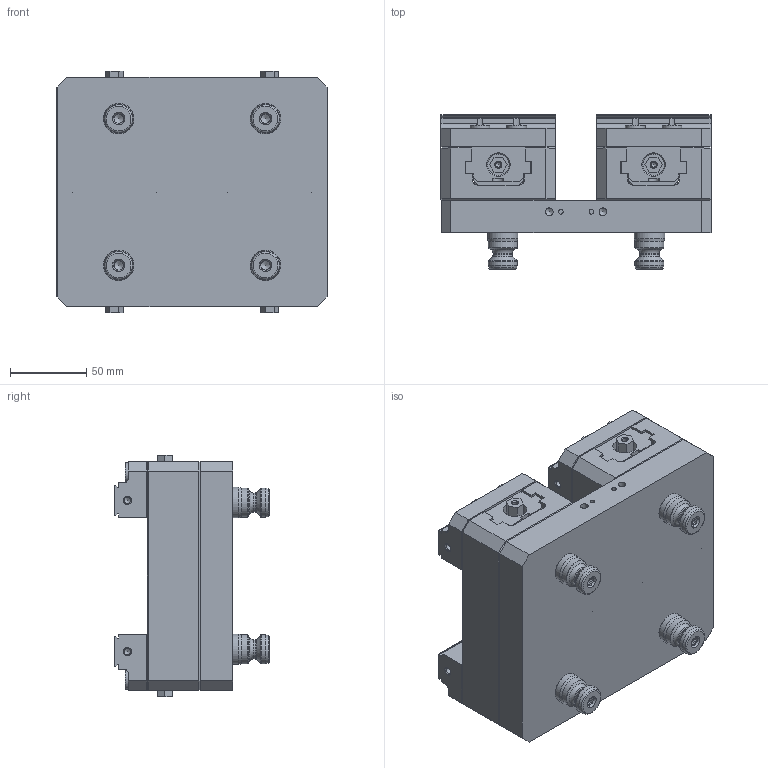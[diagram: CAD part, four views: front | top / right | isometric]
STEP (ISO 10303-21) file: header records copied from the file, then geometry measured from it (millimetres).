
FILE_DESCRIPTION (( 'STEP AP214' ), '1' );
FILE_NAME ('A96-2V75150X_WEBSITE.step', '2025-08-14T18:43:56', ( '' ), ( '' ), 'SwSTEP 2.0', 'SolidWorks 2024', '' );
FILE_SCHEMA (( 'AUTOMOTIVE_DESIGN' ));
Length unit declared in the file: inch
Products named in the file (20): V75150-4_WEBSITE; D_PS20F-1_WEBSITE_HARD TURN; M5x10.DP_WEBSITE_93600A511; HW.76252_WEBSITE_91290A442; D_39874.CPSS_WEBSITE_91390A162; V75100X-2_WEBSITE_V75100X-2L OP2; D_PS20F_WEBSITE; HW.76232_WEBSITE_91290A418; A96-2V75150X_WEBSITE; LP8_WEBSITE_LP8; HW.76048_WEBSITE_91290A138; V75100-6_WEBSITE; V75150X-1_WEBSITE_FINAL; V75150X_WEBSITE; SB3V_WEBSITE_FINISHED PART; V75100X-3_WEBSITE; M4C_WEBSITE; A96-2V75100X-1_WEBSITE; V75100X-2_WEBSITE_V75100X-2R OP2; V75100X-5_WEBSITE_HARD OP2
Assembly tree (36 placements, depth 3):
  A96-2V75150X_WEBSITE
    A96-2V75100X-1_WEBSITE
    V75150X_WEBSITE  x2
      V75150X-1_WEBSITE_FINAL
      V75100X-2_WEBSITE_V75100X-2R OP2
      V75100X-2_WEBSITE_V75100X-2L OP2
      V75100X-3_WEBSITE
      V75150-4_WEBSITE
      V75100X-5_WEBSITE_HARD OP2
      V75100-6_WEBSITE
      SB3V_WEBSITE_FINISHED PART
      M5x10.DP_WEBSITE_93600A511
      HW.76048_WEBSITE_91290A138
      HW.76232_WEBSITE_91290A418
      M4C_WEBSITE
      LP8_WEBSITE_LP8
      HW.76252_WEBSITE_91290A442
    D_PS20F_WEBSITE  x4
      D_PS20F-1_WEBSITE_HARD TURN
      D_39874.CPSS_WEBSITE_91390A162
Bounding box: 176.6 x 101.09 x 158 mm (x, y, z)
Volume: 1363688.5 mm3; surface area: 326875.9 mm2
Topology: 63 solids, 63 shells, 1732 faces, 4040 edges, 2564 vertices
Faces by surface type: plane 962, cylinder 384, cone 350, torus 36
Full cylindrical faces by diameter (mm): 3 x4, 3.03 x2, 3.124 x2, 3.3 x4, 3.454 x2, 4 x6, 4.2 x14, 4.5 x2, 4.915 x8, 4.999 x4, 5 x14, 5.013 x4, 5.017 x4, 5.052 x4, 5.969 x2, 6.147 x4, 6.35 x2, 6.8 x32, 7 x2, 7.4 x2, 8 x24, 8.014 x6, 8.5 x20, 9 x8, 9.5 x4, 10 x8, 10.2 x4, 11 x4, 11.971 x4, 12 x4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
Entity records: 19729 total; most frequent: CARTESIAN_POINT 2842, DIRECTION 2602, ORIENTED_EDGE 2092, EDGE_CURVE 1046, AXIS2_PLACEMENT_3D 1002, EDGE_LOOP 886, VERTEX_POINT 784, FACE_OUTER_BOUND 701
